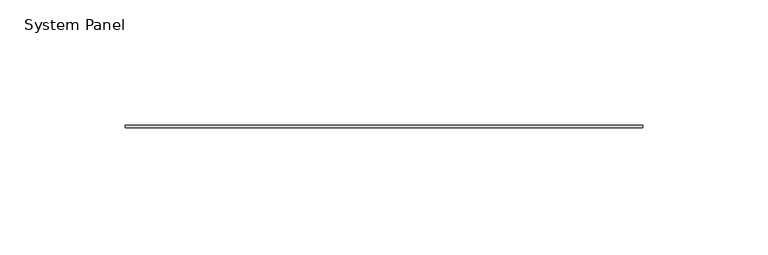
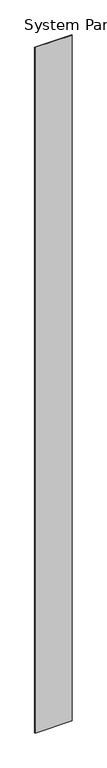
"""IFC4 building model written with IfcOpenShell, lengths in millimetres: plate geometry, System Panel : Stratco_Hiland_Tray."""

from ifc_helpers import new_model, si_unit, origin, origin_with_axes, place, context, project, spatial, polyline, outline, extrude, source, transform, mapped, element, save


def system_panel_d31fda82(model_context):
    return source(origin(), model_context, "Body", "SweptSolid", [
        extrude(outline(polyline([(103.2889718, 2.5), (-103.2889718, 2.5), (-103.2889718, 3.5), (103.2889718, 3.5), (103.2889718, 2.5)])), origin_with_axes(), (0.0, 0.0, 1.0), 4000.0),
    ])


if __name__ == "__main__":
    model = new_model("IFC4")
    model_context = context("Model", 3, world=origin())
    ifc_project = project(units=[si_unit("LENGTHUNIT", "METRE", prefix="MILLI")], contexts=[model_context])
    site = spatial("IfcSite", under=ifc_project)
    building = spatial("IfcBuilding", under=site)
    placement = place(None, origin())
    system_panel_shape = system_panel_d31fda82(model_context)
    element("IfcPlate", 1, ObjectType="System Panel : Stratco_Hiland_Tray", at=placement, inside=building, context=model_context, shape_type="MappedRepresentation", body=[
        mapped(system_panel_shape, transform((0.0, 0.0, 0.0), x_axis=(1.0, 0.0, 0.0), y_axis=(0.0, 1.0, 0.0), z_axis=(0.0, 0.0, 1.0))),
    ])
    save(model, "model.ifc")
